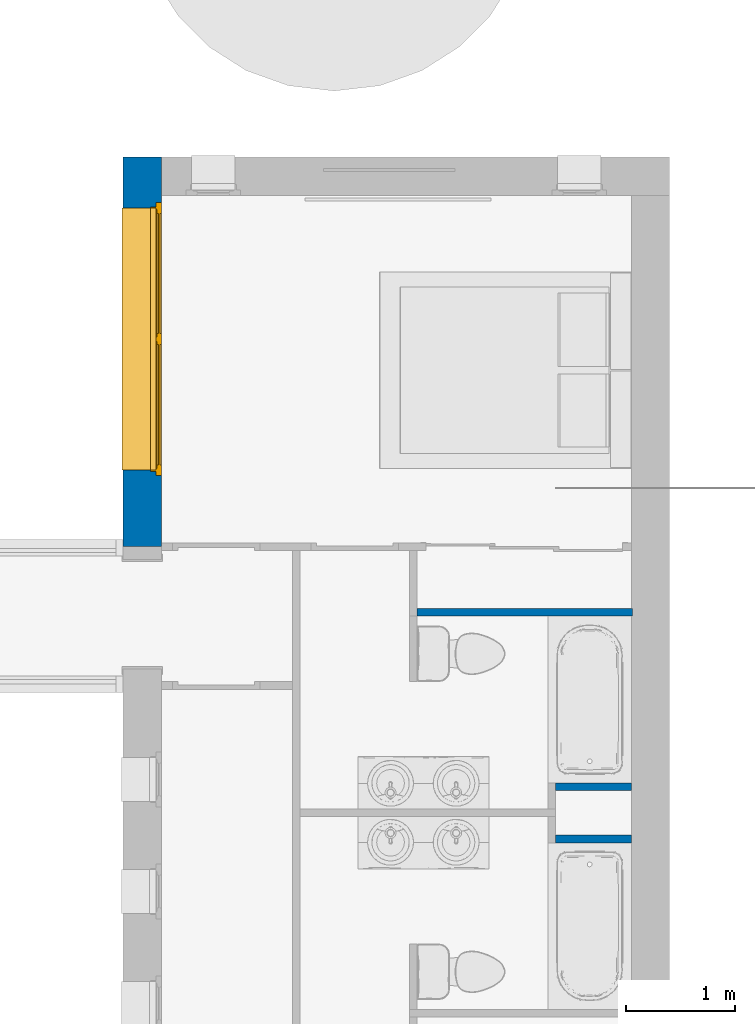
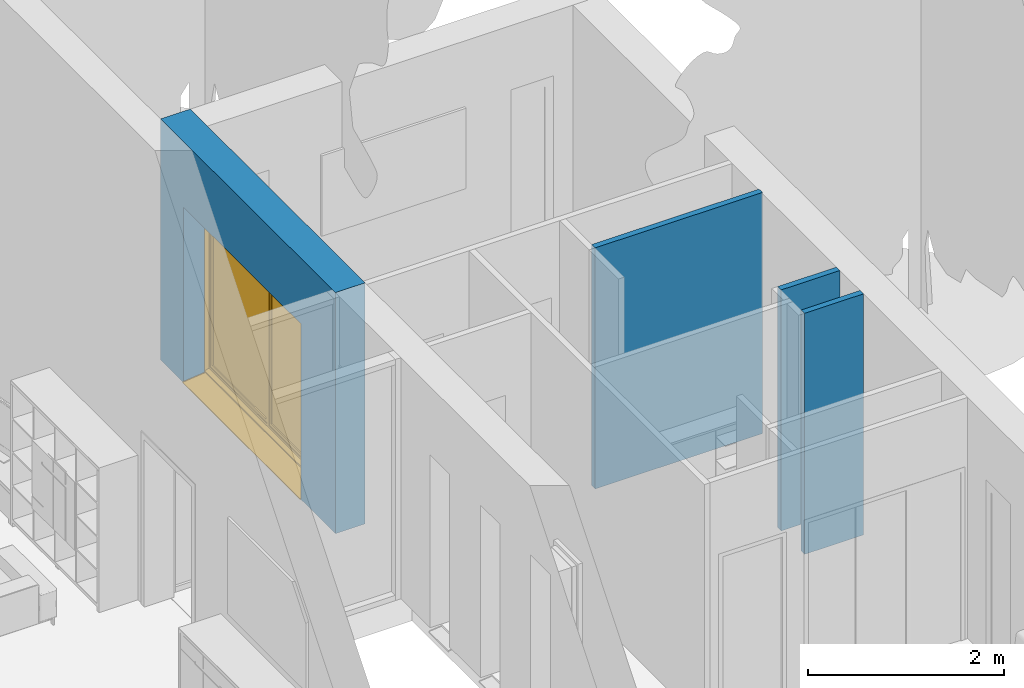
# One storey, part 13 of 40: 4 walls, 1 window, 1 opening.
"""IFC2X3 building model written with IfcOpenShell, lengths in metres."""

from ifc_helpers import new_model, entity, si_unit, converted_unit, derived_unit, direction, frame, frame_2d, origin, place, context, subcontext, project, spatial, rectangle, extrude, faceted_brep, source, transform, mapped, material, material_list, layer, layer_set, layer_usage, type_object, type_shapes, element, fill, save


model = new_model("IFC2X3")

# Units and contexts
model_context = context("Model", 3, precision=1e-05, world=origin(), true_north=direction((6.12303176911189e-17, 1.0)))
body_context = subcontext(model_context, "Body", "Model", "MODEL_VIEW")
ifc_project = project(units=[si_unit("LENGTHUNIT", "METRE"), si_unit("AREAUNIT", "SQUARE_METRE"), si_unit("VOLUMEUNIT", "CUBIC_METRE"), converted_unit("PLANEANGLEUNIT", "DEGREE", entity("IfcRatioMeasure", 0.0174532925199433), si_unit("PLANEANGLEUNIT", "RADIAN"), dimensions=[0, 0, 0, 0, 0, 0, 0]), si_unit("MASSUNIT", "GRAM", prefix="KILO"), derived_unit("MASSDENSITYUNIT", [(si_unit("MASSUNIT", "GRAM", prefix="KILO"), 1), (si_unit("LENGTHUNIT", "METRE"), -3)]), si_unit("TIMEUNIT", "SECOND"), si_unit("FREQUENCYUNIT", "HERTZ"), si_unit("THERMODYNAMICTEMPERATUREUNIT", "DEGREE_CELSIUS"), derived_unit("THERMALTRANSMITTANCEUNIT", [(si_unit("MASSUNIT", "GRAM", prefix="KILO"), 1), (si_unit("THERMODYNAMICTEMPERATUREUNIT", "KELVIN"), -1), (si_unit("TIMEUNIT", "SECOND"), -3)]), derived_unit("VOLUMETRICFLOWRATEUNIT", [(si_unit("LENGTHUNIT", "METRE"), 3), (si_unit("TIMEUNIT", "SECOND"), -1)]), si_unit("ELECTRICCURRENTUNIT", "AMPERE"), si_unit("ELECTRICVOLTAGEUNIT", "VOLT"), si_unit("POWERUNIT", "WATT"), si_unit("FORCEUNIT", "NEWTON", prefix="KILO"), si_unit("ILLUMINANCEUNIT", "LUX"), si_unit("LUMINOUSFLUXUNIT", "LUMEN"), si_unit("LUMINOUSINTENSITYUNIT", "CANDELA"), derived_unit("USERDEFINED", [(si_unit("MASSUNIT", "GRAM", prefix="KILO"), -1), (si_unit("LENGTHUNIT", "METRE"), -2), (si_unit("TIMEUNIT", "SECOND"), 3), (si_unit("LUMINOUSFLUXUNIT", "LUMEN"), 1)]), derived_unit("LINEARVELOCITYUNIT", [(si_unit("LENGTHUNIT", "METRE"), 1), (si_unit("TIMEUNIT", "SECOND"), -1)]), si_unit("PRESSUREUNIT", "PASCAL"), derived_unit("USERDEFINED", [(si_unit("LENGTHUNIT", "METRE"), -2), (si_unit("MASSUNIT", "GRAM", prefix="KILO"), 1), (si_unit("TIMEUNIT", "SECOND"), -2)])], contexts=[model_context])

# Site, building, storey
site_placement = place(None, origin())
site = spatial("IfcSite", under=ifc_project, at=site_placement, Name="Surface", CompositionType="ELEMENT")
building_placement = place(site_placement, origin())
building = spatial("IfcBuilding", under=site, at=building_placement, CompositionType="ELEMENT")
storey_placement = place(building_placement, origin())
storey = spatial("IfcBuildingStorey", under=building, at=storey_placement, Name="RDC", CompositionType="ELEMENT", Elevation=-1.0941605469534e-13)

# Wall, opening, window
ifc_material_1 = material(Name="Bardage bois")
ifc_layer_1 = layer(ifc_material_1, 0.01)
ifc_material_2 = material(Name="Maçonnerie - Isolant")
ifc_layer_2 = layer(ifc_material_2, 0.12)
ifc_material_3 = material(Name="Blocs béton manufacturés")
ifc_layer_3 = layer(ifc_material_3, 0.2)
ifc_material_4 = material(Name="Par défaut")
ifc_layer_4 = layer(ifc_material_4, 0.01)
ifc_material_5 = material(Name="Plâtre")
ifc_layer_5 = layer(ifc_material_5, 0.01)
ifc_layer_set_1 = layer_set([ifc_layer_1, ifc_layer_2, ifc_layer_3, ifc_layer_4, ifc_layer_5], Name="Mur de base:M8 Ext. Bois 2 + Isolant 12 +  BBMC 20 + vide 1 + ba13")
ifc_layer_usage_1 = layer_usage(ifc_layer_set_1, "AXIS2", "NEGATIVE", 0.175)
wall_type_1 = type_object("IfcWallType", Name="Mur de base:M8 Ext. Bois 2 + Isolant 12 +  BBMC 20 + vide 1 + ba13", PredefinedType="STANDARD", material=ifc_layer_set_1)
wall_1_placement = place(storey_placement, frame((11.9725111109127, 4.31201067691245, 0.0), z_axis=(0.0, 0.0, 1.0), x_axis=(0.0, 1.0, 0.0)))
wall_1 = element("IfcWallStandardCase", 1, at=wall_1_placement, inside=storey, type_object=wall_type_1, material=ifc_layer_usage_1, Name="Mur de base:M8 Ext. Bois 2 + Isolant 12 +  BBMC 20 + vide 1 + ba13", ObjectType="Mur de base:M8 Ext. Bois 2 + Isolant 12 +  BBMC 20 + vide 1 + ba13", context=body_context, shape_type="SweptSolid", body=[
    extrude(rectangle(XDim=3.565, YDim=0.349999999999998, at=frame_2d((1.7825, 1.52655665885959e-16), x_axis=(-1.0, 0.0))), origin(), (0.0, 0.0, 1.0), 2.99999999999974),
])
opening_placement = place(wall_1_placement, frame((0.649999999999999, 0.499999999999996, 0.0), z_axis=(0.0, 0.0, 1.0), x_axis=(0.0, -1.0, 0.0)))
opening = element("IfcOpeningElement", 2, at=opening_placement, cuts=wall_1, Name="Mur de base:M8 Ext. Bois 2 + Isolant 12 +  BBMC 20 + vide 1 + ba13", ObjectType="Opening", context=body_context, shape_type="Brep", body=[
    faceted_brep([(0.594999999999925, 2.45, 0.0350000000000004), (0.261997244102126, 2.45, 0.0), (0.0, 2.45, 0.0), (0.0, 2.45, 2.185), (0.575000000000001, 2.45, 2.185), (0.575000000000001, 2.45, 0.0350000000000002), (1.0, 0.0500000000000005, 0.0350000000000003), (1.0, 0.0500000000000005, 2.185), (0.674999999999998, 0.0500000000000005, 2.185), (0.674999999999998, 0.0500000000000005, 0.0350000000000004), (1.0, 2.45, 0.0350000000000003), (0.674999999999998, 0.0, 0.0350000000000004), (0.624999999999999, 0.0, 0.0350000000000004), (0.624999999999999, 0.0399999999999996, 0.0350000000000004), (0.574999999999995, 0.0400000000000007, 0.0350000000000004), (0.574999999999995, 0.0500000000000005, 0.0350000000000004), (0.594999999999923, 0.0500000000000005, 0.0350000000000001), (0.574999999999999, 2.46, 0.0350000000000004), (0.625000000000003, 2.46, 0.0350000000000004), (0.625000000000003, 2.5, 0.0350000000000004), (0.675000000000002, 2.5, 0.0350000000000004), (0.675000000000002, 2.45, 0.0350000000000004), (1.0, 2.45, 2.185), (0.675000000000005, 2.45, 2.185), (0.0, 0.0500000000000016, 0.0), (0.0, 0.0500000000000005, 2.185), (0.261997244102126, 0.0499999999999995, 0.0), (0.625000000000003, 2.5, 2.235), (0.675000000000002, 2.5, 2.235), (0.625000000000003, 2.46, 2.195), (0.624999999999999, 0.0400000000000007, 2.195), (0.624999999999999, 0.0, 2.235), (0.575000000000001, 2.46, 2.195), (0.574999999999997, 0.0500000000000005, 2.185), (0.574999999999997, 0.0399999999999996, 2.195), (0.674999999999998, 0.0, 2.235)], [[[0, 1, 2, 3, 4, 5]], [[6, 7, 8, 9]], [[10, 6, 9, 11, 12, 13, 14, 15, 16, 0, 5, 17, 18, 19, 20, 21]], [[10, 22, 7, 6]], [[7, 22, 23, 8]], [[3, 2, 24, 25]], [[2, 1, 26, 24]], [[1, 0, 16, 26]], [[20, 19, 27, 28]], [[19, 18, 29, 30, 13, 12, 31, 27]], [[18, 17, 32, 29]], [[17, 5, 4, 33, 15, 14, 34, 32]], [[21, 20, 28, 35, 11, 9, 8, 23]], [[28, 27, 31, 35]], [[30, 29, 32, 34]], [[31, 12, 11, 35]], [[13, 30, 34, 14]], [[3, 25, 33, 4]], [[25, 24, 26, 16, 15, 33]], [[22, 10, 21, 23]]]),
])
ifc_material_6 = material(Name="Fenêtre - Appui")
ifc_material_7 = material(Name="Fenêtre - Cadre")
ifc_material_8 = material(Name="Fenêtre - Vitrage")
ifc_material_list_1 = material_list([ifc_material_6, ifc_material_7, ifc_material_8])
ifc_material_list_2 = material_list([ifc_material_6, ifc_material_7, ifc_material_8])
window_style = type_object("IfcWindowStyle", Name="2.40m x 2.15m", ConstructionType="NOTDEFINED", OperationType="DOUBLE_PANEL_VERTICAL", ParameterTakesPrecedence=False, Sizeable=False, material=ifc_material_list_2)
shared_shape = source(origin(), body_context, "Body", "Brep", [
    faceted_brep([(0.0500000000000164, 0.0350288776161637, 0.0108229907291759), (0.0500000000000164, 0.0350288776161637, -0.000255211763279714), (0.0500000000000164, 0.0300288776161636, 0.000270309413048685), (0.0500000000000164, 0.0300288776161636, 0.00609330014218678), (0.0500000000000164, -0.244999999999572, 0.0349999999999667), (0.0500000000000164, -0.244999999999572, 0.0499999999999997), (0.0500000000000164, -0.239999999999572, 0.0499999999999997), (0.0500000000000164, -0.239999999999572, 0.0397296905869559), (2.45000000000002, 0.0350288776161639, 0.0108229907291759), (2.45000000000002, -0.239999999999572, 0.0397296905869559), (2.45000000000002, -0.239999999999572, 0.0499999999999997), (2.45000000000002, -0.244999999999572, 0.0499999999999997), (2.45000000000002, -0.244999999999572, 0.0349999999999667), (2.45000000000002, 0.0300288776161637, 0.00609330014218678), (2.45000000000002, 0.0300288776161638, 0.000270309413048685), (2.45000000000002, 0.0350288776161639, -0.000255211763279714)], [[[0, 1, 2, 3, 4, 5, 6, 7]], [[8, 9, 10, 11, 12, 13, 14, 15]], [[7, 9, 8, 0]], [[6, 10, 9, 7]], [[5, 11, 10, 6]], [[4, 12, 11, 5]], [[3, 13, 12, 4]], [[2, 14, 13, 3]], [[1, 15, 14, 2]], [[0, 8, 15, 1]]]),
    faceted_brep([(2.45000000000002, 0.0340014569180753, 0.0149254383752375), (2.45000000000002, 0.0314469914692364, 0.0162270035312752), (2.45000000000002, -0.23999999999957, 0.0447572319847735), (2.45000000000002, -0.23999999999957, 0.0397296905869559), (2.45000000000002, 0.0350288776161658, 0.0108229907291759), (2.45000000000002, 0.0350288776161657, 0.0122489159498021), (2.44500000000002, 0.0314469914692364, 0.0162270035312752), (2.44500000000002, 0.0340014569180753, 0.0149254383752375), (2.44500000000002, 0.0350288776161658, 0.0122489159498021), (2.44500000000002, 0.0350288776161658, 0.0108229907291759), (2.44500000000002, -0.23999999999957, 0.0397296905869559), (2.44500000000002, -0.23999999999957, 0.0447572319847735)], [[[0, 1, 2, 3, 4, 5]], [[6, 7, 8, 9, 10, 11]], [[9, 4, 3, 10]], [[10, 3, 2, 11]], [[11, 2, 1, 6]], [[0, 7, 6, 1]], [[5, 8, 7, 0]], [[8, 5, 4, 9]]]),
    faceted_brep([(0.0550000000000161, 0.0340014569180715, 0.0149254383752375), (0.0550000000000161, 0.0314469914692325, 0.0162270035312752), (0.0550000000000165, -0.239999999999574, 0.0447572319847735), (0.0550000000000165, -0.239999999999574, 0.0397296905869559), (0.0550000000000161, 0.0350288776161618, 0.0108229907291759), (0.0550000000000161, 0.0350288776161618, 0.0122489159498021), (0.0500000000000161, 0.0314469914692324, 0.0162270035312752), (0.0500000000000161, 0.0340014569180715, 0.0149254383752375), (0.0500000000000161, 0.0350288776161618, 0.0122489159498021), (0.0500000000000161, 0.0350288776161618, 0.0108229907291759), (0.0500000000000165, -0.239999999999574, 0.0397296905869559), (0.0500000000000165, -0.239999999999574, 0.0447572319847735)], [[[0, 1, 2, 3, 4, 5]], [[6, 7, 8, 9, 10, 11]], [[9, 4, 3, 10]], [[10, 3, 2, 11]], [[11, 2, 1, 6]], [[0, 7, 6, 1]], [[5, 8, 7, 0]], [[8, 5, 4, 9]]]),
    faceted_brep([(1.25000000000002, -0.284999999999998, 2.185), (1.25000000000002, -0.284999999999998, 0.0850000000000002), (1.25000000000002, -0.324999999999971, 0.0849999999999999), (1.25000000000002, -0.324999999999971, 2.185), (2.45000000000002, -0.284999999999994, 0.0849999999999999), (2.45000000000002, -0.324999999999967, 0.085), (2.45000000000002, -0.324999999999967, 2.185), (2.40000000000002, -0.324999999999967, 0.135), (1.30000000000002, -0.324999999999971, 0.135), (1.30000000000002, -0.324999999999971, 2.135), (2.40000000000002, -0.324999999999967, 2.135), (2.45000000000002, -0.284999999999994, 2.185), (1.30000000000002, -0.284999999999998, 0.135), (2.40000000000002, -0.284999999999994, 0.135), (2.40000000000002, -0.284999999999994, 2.135), (1.30000000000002, -0.284999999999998, 2.135)], [[[0, 1, 2, 3]], [[1, 4, 5, 2]], [[2, 5, 6, 3], [7, 8, 9, 10]], [[4, 11, 6, 5]], [[4, 1, 0, 11], [12, 13, 14, 15]], [[9, 8, 12, 15]], [[8, 7, 13, 12]], [[7, 10, 14, 13]], [[11, 0, 3, 6]], [[10, 9, 15, 14]]]),
    faceted_brep([(1.20000000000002, -0.299000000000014, 0.135), (0.100000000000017, -0.299000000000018, 0.135), (0.100000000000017, -0.299000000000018, 2.135), (1.20000000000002, -0.299000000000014, 2.135), (1.20000000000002, -0.311000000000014, 2.135), (1.20000000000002, -0.311000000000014, 0.135), (0.100000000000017, -0.311000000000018, 0.135), (0.100000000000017, -0.311000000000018, 2.135)], [[[0, 1, 2, 3]], [[3, 4, 5, 0]], [[1, 6, 7, 2]], [[0, 5, 6, 1]], [[2, 7, 4, 3]], [[5, 4, 7, 6]]]),
    faceted_brep([(1.30000000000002, -0.299000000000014, 0.135), (1.30000000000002, -0.311000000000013, 0.135), (1.30000000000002, -0.311000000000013, 2.135), (1.30000000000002, -0.299000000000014, 2.135), (2.40000000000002, -0.29900000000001, 0.135), (2.40000000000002, -0.31100000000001, 0.135), (2.40000000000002, -0.29900000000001, 2.135), (2.40000000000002, -0.31100000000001, 2.135)], [[[0, 1, 2, 3]], [[4, 5, 1, 0]], [[6, 7, 5, 4]], [[7, 2, 1, 5]], [[3, 2, 7, 6]], [[6, 4, 0, 3]]]),
    faceted_brep([(1.20000000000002, -0.285000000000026, 2.135), (1.20000000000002, -0.285000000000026, 0.135), (1.20000000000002, -0.325000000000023, 0.135), (1.20000000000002, -0.325000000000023, 2.135), (0.100000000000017, -0.285000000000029, 0.135), (0.100000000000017, -0.325000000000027, 0.135), (0.100000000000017, -0.325000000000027, 2.135), (0.0500000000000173, -0.325000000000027, 0.0850000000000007), (1.25000000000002, -0.325000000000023, 0.0850000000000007), (1.25000000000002, -0.325000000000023, 2.185), (0.0500000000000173, -0.325000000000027, 2.185), (0.100000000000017, -0.285000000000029, 2.135), (1.25000000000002, -0.285000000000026, 0.0850000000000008), (0.0500000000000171, -0.285000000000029, 0.0850000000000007), (0.0500000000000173, -0.285000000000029, 2.185), (1.25000000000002, -0.285000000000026, 2.185)], [[[0, 1, 2, 3]], [[1, 4, 5, 2]], [[2, 5, 6, 3], [7, 8, 9, 10]], [[4, 11, 6, 5]], [[4, 1, 0, 11], [12, 13, 14, 15]], [[9, 8, 12, 15]], [[8, 7, 13, 12]], [[7, 10, 14, 13]], [[11, 0, 3, 6]], [[10, 9, 15, 14]]], outer=[[True], [True], [False, True], [True], [False, True], [True], [True], [True], [True], [True]]),
    faceted_brep([(2.50000000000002, -0.325000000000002, 0.0350000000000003), (0.0, -0.325000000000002, 0.0350000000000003), (0.0, -0.275000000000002, 0.0350000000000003), (0.0500000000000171, -0.275000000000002, 0.0350000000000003), (0.0500000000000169, -0.24500000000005, 0.0350000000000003), (2.45000000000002, -0.245000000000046, 0.0350000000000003), (2.45000000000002, -0.275000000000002, 0.0350000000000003), (2.50000000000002, -0.275000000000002, 0.0350000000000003), (2.50000000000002, -0.275000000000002, 2.235), (2.50000000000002, -0.325000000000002, 2.235), (2.45000000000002, -0.275000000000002, 0.0743761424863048), (0.0500000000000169, -0.275000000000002, 0.0743761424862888), (0.0, -0.275000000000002, 2.235), (2.43500000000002, -0.275000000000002, 2.17), (0.0650000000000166, -0.275000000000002, 2.17), (0.0650000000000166, -0.275000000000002, 0.0999999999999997), (2.43500000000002, -0.275000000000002, 0.0999999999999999), (2.45000000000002, -0.245000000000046, 0.050000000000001), (2.45000000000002, -0.235000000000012, 0.050000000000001), (2.45000000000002, -0.235000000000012, 0.0450000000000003), (2.45000000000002, -0.225000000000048, 0.0450000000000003), (2.45000000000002, -0.225000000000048, 0.060978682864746), (0.0500000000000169, -0.24500000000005, 0.050000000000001), (0.0500000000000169, -0.225000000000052, 0.060978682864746), (0.0500000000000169, -0.225000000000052, 0.0450000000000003), (0.0500000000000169, -0.235000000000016, 0.0450000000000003), (0.0500000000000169, -0.235000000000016, 0.050000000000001), (0.0, -0.325000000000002, 2.235), (0.0500000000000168, -0.325000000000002, 2.185), (2.45000000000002, -0.325000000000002, 2.185), (2.45000000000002, -0.325000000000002, 0.0850000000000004), (0.0500000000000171, -0.325000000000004, 0.0850000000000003), (2.43500000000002, -0.285000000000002, 0.0999999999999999), (2.43500000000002, -0.285000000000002, 2.17), (0.0650000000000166, -0.285000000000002, 0.1), (0.0650000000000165, -0.285000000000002, 2.17), (0.0500000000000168, -0.285000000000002, 2.185), (0.0500000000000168, -0.285000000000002, 0.0850000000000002), (2.45000000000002, -0.285000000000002, 0.0850000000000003), (2.45000000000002, -0.285000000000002, 2.185)], [[[0, 1, 2, 3, 4, 5, 6, 7]], [[7, 8, 9, 0]], [[7, 6, 10, 11, 3, 2, 12, 8], [13, 14, 15, 16]], [[10, 6, 5, 17, 18, 19, 20, 21]], [[5, 4, 22, 17]], [[4, 3, 11, 23, 24, 25, 26, 22]], [[2, 1, 27, 12]], [[0, 9, 27, 1], [28, 29, 30, 31]], [[13, 16, 32, 33]], [[32, 16, 15, 34]], [[35, 34, 15, 14]], [[21, 23, 11, 10]], [[33, 32, 34, 35], [36, 37, 38, 39]], [[38, 30, 29, 39]], [[30, 38, 37, 31]], [[28, 31, 37, 36]], [[20, 24, 23, 21]], [[19, 25, 24, 20]], [[18, 26, 25, 19]], [[17, 22, 26, 18]], [[13, 33, 35, 14]], [[39, 29, 28, 36]], [[12, 27, 9, 8]]], outer=[[True], [True], [True, False], [True], [True], [True], [True], [True, False], [True], [True], [True], [True], [False, True], [True], [True], [True], [True], [True], [True], [True], [True], [True], [True]]),
    faceted_brep([(2.45000000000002, -0.225, 0.0350000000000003), (2.46000000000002, -0.225, 0.0350000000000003), (2.46000000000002, -0.275000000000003, 0.0350000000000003), (2.45000000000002, -0.275000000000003, 0.0350000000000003), (2.45000000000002, -0.275000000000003, 2.185), (2.45000000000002, -0.225, 2.185), (2.46000000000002, -0.275000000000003, 2.195), (0.0400000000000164, -0.275000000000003, 2.195), (0.0400000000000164, -0.275000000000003, 0.0350000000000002), (0.0500000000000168, -0.275000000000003, 0.035), (0.0500000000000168, -0.275000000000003, 2.185), (2.46000000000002, -0.225, 2.195), (0.0500000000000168, -0.225, 2.185), (0.0500000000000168, -0.225, 0.0350000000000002), (0.0400000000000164, -0.225, 0.035), (0.0400000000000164, -0.225, 2.195)], [[[0, 1, 2, 3]], [[3, 4, 5, 0]], [[2, 6, 7, 8, 9, 10, 4, 3]], [[1, 11, 6, 2]], [[0, 5, 12, 13, 14, 15, 11, 1]], [[10, 9, 13, 12]], [[13, 9, 8, 14]], [[15, 14, 8, 7]], [[4, 10, 12, 5]], [[11, 15, 7, 6]]]),
    faceted_brep([(1.23000000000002, -0.277000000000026, 2.17), (1.23000000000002, -0.285000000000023, 2.17), (1.27000000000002, -0.285000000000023, 2.17), (1.27000000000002, -0.277000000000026, 2.17), (1.23000000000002, -0.277000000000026, 0.0999999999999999), (1.27000000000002, -0.277000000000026, 0.0999999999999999), (1.27000000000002, -0.285000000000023, 0.0999999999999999), (1.23000000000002, -0.285000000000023, 0.0999999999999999)], [[[0, 1, 2, 3]], [[4, 5, 6, 7]], [[3, 5, 4, 0]], [[2, 6, 5, 3]], [[1, 7, 6, 2]], [[0, 4, 7, 1]]]),
])
type_shapes(window_style, [shared_shape])
window_placement = place(opening_placement, frame((0.349999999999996, 0.0, 0.0), z_axis=(0.0, 0.0, 1.0), x_axis=(0.0, 1.0, 0.0)))
window = element("IfcWindow", 3, at=window_placement, inside=storey, type_object=window_style, material=ifc_material_list_1, Name="PF 2 Vantaux - Droits:2.40m x 2.15m", ObjectType="2.40m x 2.15m", OverallHeight=2.265, OverallWidth=2.5, context=body_context, shape_type="MappedRepresentation", body=[
    mapped(shared_shape, transform((0.0, 0.0, 0.0), scale=1.0)),
])
fill(opening, window)

# Walls
ifc_material_9 = material(Name="Mur par défaut")
ifc_layer_6 = layer(ifc_material_9, 0.07)
ifc_layer_set_2 = layer_set([ifc_layer_6], Name="Mur de base:Générique - Int. 70 mm")
ifc_layer_usage_2 = layer_usage(ifc_layer_set_2, "AXIS2", "NEGATIVE", 0.035)
wall_type_2 = type_object("IfcWallType", Name="Mur de base:Générique - Int. 70 mm", PredefinedType="STANDARD", material=ifc_layer_set_2)
wall_2_placement = place(storey_placement, frame((14.4875111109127, 3.71201067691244, 0.0)))
element("IfcWallStandardCase", 4, at=wall_2_placement, inside=storey, type_object=wall_type_2, material=ifc_layer_usage_2, Name="Mur de base:Générique - Int. 70 mm", ObjectType="Mur de base:Générique - Int. 70 mm", context=body_context, shape_type="SweptSolid", body=[
    extrude(rectangle(XDim=1.97, YDim=0.0700000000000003, at=frame_2d((0.984999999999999, 0.0), x_axis=(-1.0, 0.0))), origin(), (0.0, 0.0, 1.0), 2.99999999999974),
])
ifc_layer_usage_3 = layer_usage(ifc_layer_set_2, "AXIS2", "NEGATIVE", 0.035)
wall_3_placement = place(storey_placement, frame((15.7555111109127, 2.11701067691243, 0.0)))
element("IfcWallStandardCase", 5, at=wall_3_placement, inside=storey, type_object=wall_type_2, material=ifc_layer_usage_3, Name="Mur de base:Générique - Int. 70 mm", ObjectType="Mur de base:Générique - Int. 70 mm", context=body_context, shape_type="SweptSolid", body=[
    extrude(rectangle(XDim=0.692000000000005, YDim=0.0699999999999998, at=frame_2d((0.346000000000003, 0.0), x_axis=(-1.0, 0.0))), origin(), (0.0, 0.0, 1.0), 2.99999999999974),
])
ifc_layer_usage_4 = layer_usage(ifc_layer_set_2, "AXIS2", "POSITIVE", -0.035)
wall_4_placement = place(storey_placement, frame((15.7555111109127, 1.63701067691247, 0.0)))
element("IfcWallStandardCase", 6, at=wall_4_placement, inside=storey, type_object=wall_type_2, material=ifc_layer_usage_4, Name="Mur de base:Générique - Int. 70 mm", ObjectType="Mur de base:Générique - Int. 70 mm", context=body_context, shape_type="SweptSolid", body=[
    extrude(rectangle(XDim=0.692000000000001, YDim=0.0699999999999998, at=frame_2d((0.346, 1.04083408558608e-17), x_axis=(-1.0, 0.0))), origin(), (0.0, 0.0, 1.0), 2.99999999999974),
])

save(model, "model.ifc")
